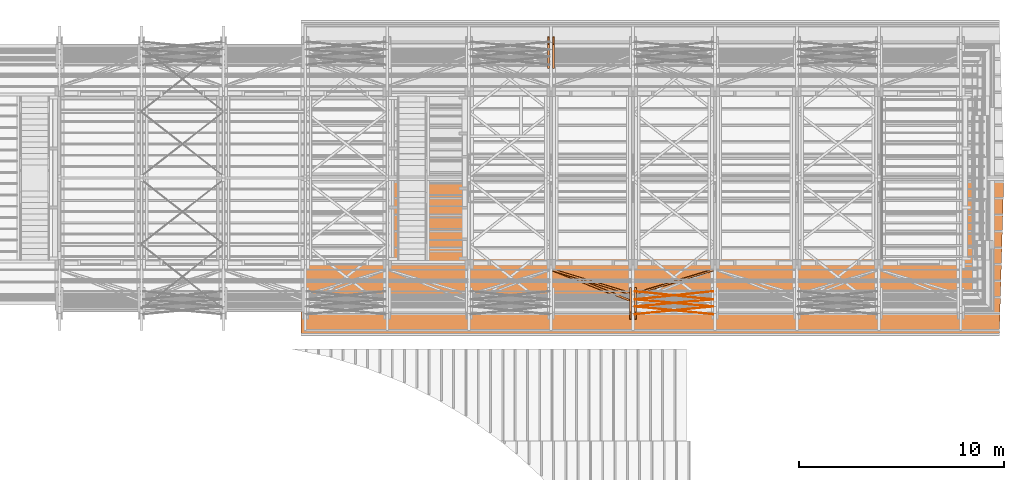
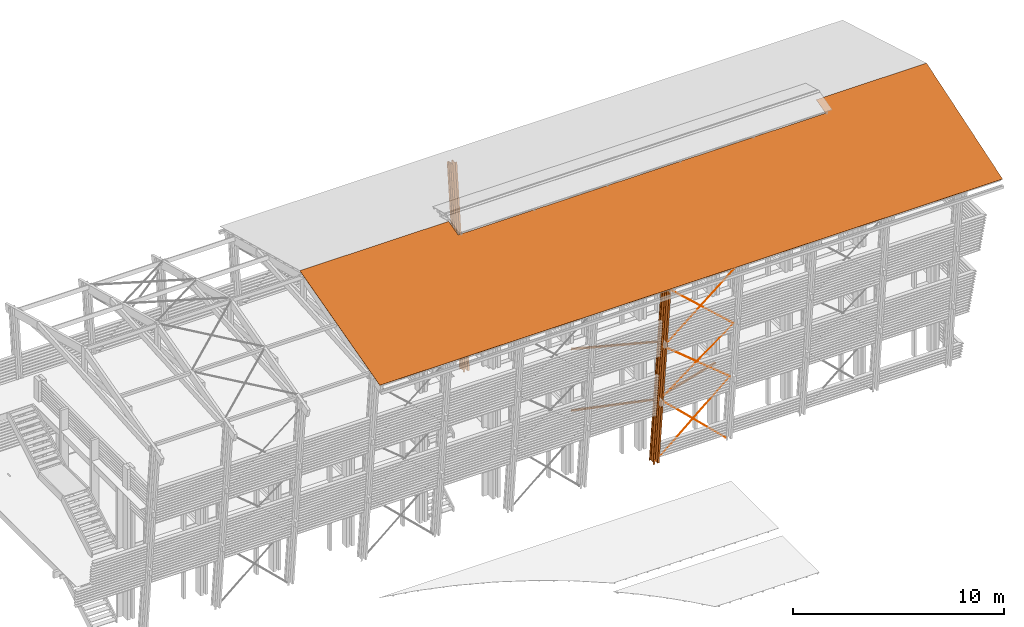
# One storey, part 43 of 48: 14 proxies, 1 element without a shape of its own.
"""IFC2X3 building model written with IfcOpenShell, lengths in metres."""

import ifcopenshell
import ifcopenshell.guid

model = None  # the IFC model being written
_history = None  # IfcOwnerHistory: only IFC2X3 demands one
_inside = {}  # id of a spatial element -> (the spatial element, [elements in it])
_under = {}  # id of a project, library or spatial element -> (it, [spatial elements below it])
_declared = {}  # id of a project -> (the project, [libraries it declares])
_typed = {}  # id of a type object -> (the type object, [elements of that type])
_made_of = {}  # id of a material, layer set ... -> (it, [elements and type objects made of it])


def new_model(schema):
    """Start an empty IFC model of exactly this schema.

    Asked for "IFC4X3", IfcOpenShell would pick the latest addendum, in which some entities
    have other attributes; the version numbers below select the first issue.
    IFC2X3 requires an IfcOwnerHistory on every rooted entity: one is made here for all.
    """
    global model, _history
    if schema == "IFC4X3":
        model = ifcopenshell.file(schema_version=(4, 3, 0, 0))
    else:
        model = ifcopenshell.file(schema=schema)
    _inside.clear()
    _under.clear()
    _declared.clear()
    _typed.clear()
    _made_of.clear()
    _history = None
    if model.schema == "IFC2X3":
        org = make("IfcOrganization", Name="unknown")
        user = make(
            "IfcPersonAndOrganization",
            ThePerson=make("IfcPerson", FamilyName="unknown"),
            TheOrganization=org,
        )
        app = make(
            "IfcApplication",
            ApplicationDeveloper=org,
            Version="unknown",
            ApplicationFullName="unknown",
            ApplicationIdentifier="unknown",
        )
        _history = make(
            "IfcOwnerHistory",
            OwningUser=user,
            OwningApplication=app,
            ChangeAction="ADDED",
            CreationDate=0,
        )
    return model


def make(cls, **values):
    """One entity of the class cls with the attributes given. An attribute that is None is left unset."""
    return model.create_entity(
        cls, **{name: value for name, value in values.items() if value is not None}
    )


def rooted(cls, **values):
    """An entity with a GlobalId (a new one), such as an element, a storey or a relation."""
    return make(cls, GlobalId=ifcopenshell.guid.new(), OwnerHistory=_history, **values)


def si_unit(unit_type, name, prefix=None):
    """IfcSIUnit, for example si_unit("LENGTHUNIT", "METRE", prefix="MILLI")."""
    return make("IfcSIUnit", UnitType=unit_type, Prefix=prefix, Name=name)


def assignment(units):
    """IfcUnitAssignment: the units of a project."""
    return None if units is None else make("IfcUnitAssignment", Units=units)


def point(xyz):
    """IfcCartesianPoint."""
    return None if xyz is None else make("IfcCartesianPoint", Coordinates=xyz)


def direction(xyz):
    """IfcDirection."""
    return None if xyz is None else make("IfcDirection", DirectionRatios=xyz)


def frame(location, z_axis=None, x_axis=None):
    """IfcAxis2Placement3D, a coordinate frame: its origin and axes. An axis left out is left unset."""
    return make(
        "IfcAxis2Placement3D",
        Location=point(location),
        Axis=direction(z_axis),
        RefDirection=direction(x_axis),
    )


def origin_with_axes():
    """The frame at (0, 0, 0) with the z axis (0, 0, 1) and the x axis (1, 0, 0) written out."""
    return frame((0.0, 0.0, 0.0), z_axis=(0.0, 0.0, 1.0), x_axis=(1.0, 0.0, 0.0))


def place(relative_to, where):
    """IfcLocalPlacement: puts the frame where relative to a parent placement (None: the world)."""
    return make(
        "IfcLocalPlacement", PlacementRelTo=relative_to, RelativePlacement=where
    )


def context(
    kind, dimensions, precision=None, world=None, true_north=None, identifier=None
):
    """IfcGeometricRepresentationContext, for example the 3D "Model" context."""
    return make(
        "IfcGeometricRepresentationContext",
        ContextIdentifier=identifier,
        ContextType=kind,
        CoordinateSpaceDimension=dimensions,
        Precision=precision,
        WorldCoordinateSystem=world,
        TrueNorth=true_north,
    )


def subcontext(parent, identifier, kind, view, scale=None):
    """IfcGeometricRepresentationSubContext, for example "Body" below "Model"."""
    return make(
        "IfcGeometricRepresentationSubContext",
        ContextIdentifier=identifier,
        ContextType=kind,
        ParentContext=parent,
        TargetScale=scale,
        TargetView=view,
    )


def project(units=None, contexts=None):
    """IfcProject with its units and contexts."""
    return rooted(
        "IfcProject",
        Name="project",
        RepresentationContexts=contexts,
        UnitsInContext=assignment(units),
    )


def spatial(cls, under=None, at=None, **own):
    """A site, building, storey or space (cls), placed at a placement, below another one or the project."""
    s = rooted(cls, ObjectPlacement=at, **own)
    if under is not None:
        _under.setdefault(under.id(), (under, []))[1].append(s)
    return s


def faces_of(points, faces, orient=None, outer=None):
    """IfcFace entities. A face is a list of loops; a loop is a list of indices into points, from 0.

    orient and outer hold one flag for each loop. By default every Orientation is true, the
    first loop of a face is its IfcFaceOuterBound and the others are IfcFaceBound.
    """
    made = []
    for i, loops in enumerate(faces):
        bounds = []
        for j, loop in enumerate(loops):
            is_outer = j == 0 if outer is None else outer[i][j]
            bounds.append(
                make(
                    "IfcFaceOuterBound" if is_outer else "IfcFaceBound",
                    Bound=make("IfcPolyLoop", Polygon=[points[k] for k in loop]),
                    Orientation=True if orient is None else orient[i][j],
                )
            )
        made.append(make("IfcFace", Bounds=bounds))
    return made


def faceted_brep(points, faces, orient=None, outer=None, voids=None):
    """IfcFacetedBrep: a solid bounded by flat faces; with voids (closed shells), ...WithVoids."""
    shared = [point(p) for p in points]
    hull = make("IfcClosedShell", CfsFaces=faces_of(shared, faces, orient, outer))
    if voids is None:
        return make("IfcFacetedBrep", Outer=hull)
    return make(
        "IfcFacetedBrepWithVoids",
        Outer=hull,
        Voids=[
            make(cls, CfsFaces=faces_of(shared, fs, o, b)) for cls, fs, o, b in voids
        ],
    )


def shape(context_of_items, identifier, shape_type, items):
    """IfcShapeRepresentation: the items that make up one representation, for example the "Body"."""
    return make(
        "IfcShapeRepresentation",
        ContextOfItems=context_of_items,
        RepresentationIdentifier=identifier,
        RepresentationType=shape_type,
        Items=items,
    )


def material(Name=None, Category=None):
    """IfcMaterial."""
    return make("IfcMaterial", Name=Name, Category=Category)


def made_of(thing, what):
    """Note that an element or type object is made of a material, layer set ...; save() writes the relation."""
    if what is not None:
        _made_of.setdefault(what.id(), (what, []))[1].append(thing)
    return thing


def element(
    cls,
    number,
    at=None,
    inside=None,
    cuts=None,
    type_object=None,
    material=None,
    context=None,
    identifier="Body",
    shape_type=None,
    held_by="IfcProductDefinitionShape",
    body=None,
    shapes=None,
    **own,
):
    """One element of the class cls, such as IfcWall. Its Tag is "e" and its number.

    at: its placement. inside: the storey or other place that contains it. cuts: it is an
    opening in that element (IfcRelVoidsElement). A single representation is given by context,
    identifier, shape_type and body (its items); several are given by shapes. held_by: the class
    of the entity that holds the representations. save() writes the other relations.
    """
    e = rooted(cls, Tag="e%d" % number, ObjectPlacement=at, **own)
    if body is not None:
        shapes = [shape(context, identifier, shape_type, body)]
    if shapes is not None:
        e.Representation = make(held_by, Representations=shapes)
    if inside is not None:
        _inside.setdefault(inside.id(), (inside, []))[1].append(e)
    if cuts is not None:
        rooted(
            "IfcRelVoidsElement", RelatingBuildingElement=cuts, RelatedOpeningElement=e
        )
    if type_object is not None:
        _typed.setdefault(type_object.id(), (type_object, []))[1].append(e)
    return made_of(e, material)


def aggregate(whole, parts):
    """IfcRelAggregates: a whole, such as a stair, and the parts it consists of."""
    return rooted("IfcRelAggregates", RelatingObject=whole, RelatedObjects=parts)


def save(model, path):
    """Write the relations noted so far, then the file.

    IfcRelAggregates (storeys below a building ...), IfcRelContainedInSpatialStructure (elements
    in a storey), IfcRelDefinesByType, IfcRelAssociatesMaterial and IfcRelDeclares: one each for
    every whole, place, type object, material and project.
    """
    for whole, parts in _under.values():
        aggregate(whole, parts)
    for where, things in _inside.values():
        rooted(
            "IfcRelContainedInSpatialStructure",
            RelatedElements=things,
            RelatingStructure=where,
        )
    for kind, things in _typed.values():
        rooted("IfcRelDefinesByType", RelatedObjects=things, RelatingType=kind)
    for what, things in _made_of.values():
        rooted("IfcRelAssociatesMaterial", RelatedObjects=things, RelatingMaterial=what)
    for by, libraries in _declared.values():
        rooted("IfcRelDeclares", RelatingContext=by, RelatedDefinitions=libraries)
    model.write(path)


model = new_model("IFC2X3")

# Units and contexts
model_context = context("Model", 3, precision=1e-06, world=origin_with_axes(), true_north=direction((0.0, 1.0, 0.0)))
body_context = subcontext(model_context, "Body", "Model", "MODEL_VIEW")
ifc_project = project(units=[si_unit("LENGTHUNIT", "METRE"), si_unit("AREAUNIT", "SQUARE_METRE"), si_unit("VOLUMEUNIT", "CUBIC_METRE"), si_unit("PLANEANGLEUNIT", "RADIAN")], contexts=[model_context])

# Site, building, storey
site_placement = place(None, origin_with_axes())
site = spatial("IfcSite", under=ifc_project, at=site_placement, CompositionType="ELEMENT")
building_placement = place(site_placement, origin_with_axes())
building = spatial("IfcBuilding", under=site, at=building_placement, Name="Building 1", CompositionType="ELEMENT")
storey_placement = place(building_placement, origin_with_axes())
storey = spatial("IfcBuildingStorey", under=building, at=storey_placement, Name="Storey 1", CompositionType="ELEMENT", Elevation=0.0)

# Proxies
ifc_material_1 = material(Name="Acier")
proxy_1_placement = place(storey_placement, frame((53.5737433, -195.1364145, 4.089), z_axis=(-0.6523288, -0.0792259, 0.753784), x_axis=(0.7579361, -0.0681869, 0.6487553)))
element("IfcBuildingElementProxy", 1, at=proxy_1_placement, inside=storey, material=ifc_material_1, Name="CVLP", context=body_context, shape_type="Brep", body=[
    faceted_brep([(5.0558353, 0.0093969, -0.0034202), (0.0, 0.01, 0.0), (5.0558353, 0.01, 0.0), (0.0, 0.0093969, 0.0034202), (5.0558353, 0.0093969, 0.0034202), (0.0, 0.0076604, 0.0064279), (5.0558353, 0.0076604, 0.0064279), (0.0, 0.005, 0.0086603), (5.0558353, 0.005, 0.0086603), (0.0, 0.0017365, 0.0098481), (5.0558353, 0.0017365, 0.0098481), (0.0, -0.0017365, 0.0098481), (5.0558353, -0.0017365, 0.0098481), (0.0, -0.005, 0.0086603), (5.0558353, -0.005, 0.0086603), (0.0, -0.0076604, 0.0064279), (5.0558353, -0.0076604, 0.0064279), (0.0, -0.0093969, 0.0034202), (5.0558353, -0.0093969, 0.0034202), (0.0, -0.01, 0.0), (5.0558353, -0.01, 0.0), (0.0, -0.0093969, -0.0034202), (5.0558353, -0.0093969, -0.0034202), (0.0, -0.0076604, -0.0064279), (5.0558353, -0.0076604, -0.0064279), (0.0, -0.005, -0.0086603), (5.0558353, -0.005, -0.0086603), (0.0, -0.0017365, -0.0098481), (5.0558353, -0.0017365, -0.0098481), (0.0, 0.0017365, -0.0098481), (5.0558353, 0.0017365, -0.0098481), (0.0, 0.005, -0.0086603), (5.0558353, 0.005, -0.0086603), (0.0, 0.0076604, -0.0064279), (5.0558353, 0.0076604, -0.0064279), (0.0, 0.0093969, -0.0034202)], [[[0, 1, 2]], [[2, 1, 3]], [[2, 3, 4]], [[4, 3, 5]], [[4, 5, 6]], [[6, 5, 7]], [[6, 7, 8]], [[8, 7, 9]], [[8, 9, 10]], [[10, 9, 11]], [[10, 11, 12]], [[12, 11, 13]], [[12, 13, 14]], [[14, 13, 15]], [[14, 15, 16]], [[16, 15, 17]], [[16, 17, 18]], [[18, 17, 19]], [[18, 19, 20]], [[20, 19, 21]], [[20, 21, 22]], [[22, 21, 23]], [[22, 23, 24]], [[24, 23, 25]], [[24, 25, 26]], [[26, 25, 27]], [[26, 27, 28]], [[28, 27, 29]], [[28, 29, 30]], [[30, 29, 31]], [[30, 31, 32]], [[32, 31, 33]], [[32, 33, 34]], [[34, 33, 35]], [[34, 35, 0]], [[0, 35, 1]], [[10, 12, 8]], [[8, 12, 14]], [[8, 14, 6]], [[6, 14, 16]], [[6, 16, 4]], [[4, 16, 18]], [[4, 18, 2]], [[2, 18, 20]], [[2, 20, 0]], [[0, 20, 22]], [[0, 22, 34]], [[34, 22, 24]], [[34, 24, 32]], [[32, 24, 26]], [[32, 26, 30]], [[30, 26, 28]], [[29, 27, 31]], [[31, 27, 25]], [[31, 25, 33]], [[33, 25, 23]], [[33, 23, 35]], [[35, 23, 21]], [[35, 21, 1]], [[1, 21, 19]], [[1, 19, 3]], [[3, 19, 17]], [[3, 17, 5]], [[5, 17, 15]], [[5, 15, 7]], [[7, 15, 13]], [[7, 13, 9]], [[9, 13, 11]]]),
])
proxy_2_placement = place(storey_placement, frame((57.4057433, -195.4811564, 7.369), z_axis=(0.6859491, -0.0760601, 0.7236634), x_axis=(-0.7276496, -0.0717012, 0.6821914)))
element("IfcBuildingElementProxy", 2, at=proxy_2_placement, inside=storey, material=ifc_material_1, Name="CVLP", context=body_context, shape_type="Brep", body=[
    faceted_brep([(5.2662712, 0.0093969, -0.0034202), (0.0, 0.01, 0.0), (5.2662712, 0.01, 0.0), (0.0, 0.0093969, 0.0034202), (5.2662712, 0.0093969, 0.0034202), (0.0, 0.0076604, 0.0064279), (5.2662712, 0.0076604, 0.0064279), (0.0, 0.005, 0.0086603), (5.2662712, 0.005, 0.0086603), (0.0, 0.0017365, 0.0098481), (5.2662712, 0.0017365, 0.0098481), (0.0, -0.0017365, 0.0098481), (5.2662712, -0.0017365, 0.0098481), (0.0, -0.005, 0.0086603), (5.2662712, -0.005, 0.0086603), (0.0, -0.0076604, 0.0064279), (5.2662712, -0.0076604, 0.0064279), (0.0, -0.0093969, 0.0034202), (5.2662712, -0.0093969, 0.0034202), (0.0, -0.01, 0.0), (5.2662712, -0.01, 0.0), (0.0, -0.0093969, -0.0034202), (5.2662712, -0.0093969, -0.0034202), (0.0, -0.0076604, -0.0064279), (5.2662712, -0.0076604, -0.0064279), (0.0, -0.005, -0.0086603), (5.2662712, -0.005, -0.0086603), (0.0, -0.0017365, -0.0098481), (5.2662712, -0.0017365, -0.0098481), (0.0, 0.0017365, -0.0098481), (5.2662712, 0.0017365, -0.0098481), (0.0, 0.005, -0.0086603), (5.2662712, 0.005, -0.0086603), (0.0, 0.0076604, -0.0064279), (5.2662712, 0.0076604, -0.0064279), (0.0, 0.0093969, -0.0034202)], [[[0, 1, 2]], [[2, 1, 3]], [[2, 3, 4]], [[4, 3, 5]], [[4, 5, 6]], [[6, 5, 7]], [[6, 7, 8]], [[8, 7, 9]], [[8, 9, 10]], [[10, 9, 11]], [[10, 11, 12]], [[12, 11, 13]], [[12, 13, 14]], [[14, 13, 15]], [[14, 15, 16]], [[16, 15, 17]], [[16, 17, 18]], [[18, 17, 19]], [[18, 19, 20]], [[20, 19, 21]], [[20, 21, 22]], [[22, 21, 23]], [[22, 23, 24]], [[24, 23, 25]], [[24, 25, 26]], [[26, 25, 27]], [[26, 27, 28]], [[28, 27, 29]], [[28, 29, 30]], [[30, 29, 31]], [[30, 31, 32]], [[32, 31, 33]], [[32, 33, 34]], [[34, 33, 35]], [[34, 35, 0]], [[0, 35, 1]], [[10, 12, 8]], [[8, 12, 14]], [[8, 14, 6]], [[6, 14, 16]], [[6, 16, 4]], [[4, 16, 18]], [[4, 18, 2]], [[2, 18, 20]], [[2, 20, 0]], [[0, 20, 22]], [[0, 22, 34]], [[34, 22, 24]], [[34, 24, 32]], [[32, 24, 26]], [[32, 26, 30]], [[30, 26, 28]], [[29, 27, 31]], [[31, 27, 25]], [[31, 25, 33]], [[33, 25, 23]], [[33, 23, 35]], [[35, 23, 21]], [[35, 21, 1]], [[1, 21, 19]], [[1, 19, 3]], [[3, 19, 17]], [[3, 17, 5]], [[5, 17, 15]], [[5, 15, 7]], [[7, 15, 13]], [[7, 13, 9]], [[9, 13, 11]]]),
])
proxy_3_placement = place(storey_placement, frame((57.4057441, -195.1364145, 4.089), z_axis=(0.6523288, -0.0792259, 0.753784), x_axis=(-0.7579361, -0.0681869, 0.6487553)))
element("IfcBuildingElementProxy", 3, at=proxy_3_placement, inside=storey, material=ifc_material_1, Name="CVLP", context=body_context, shape_type="Brep", body=[
    faceted_brep([(5.0558353, -0.0093969, 0.0034202), (0.0, -0.01, 0.0), (5.0558353, -0.01, 0.0), (0.0, -0.0093969, -0.0034202), (5.0558353, -0.0093969, -0.0034202), (0.0, -0.0076604, -0.0064279), (5.0558353, -0.0076604, -0.0064279), (0.0, -0.005, -0.0086603), (5.0558353, -0.005, -0.0086603), (0.0, -0.0017365, -0.0098481), (5.0558353, -0.0017365, -0.0098481), (0.0, 0.0017365, -0.0098481), (5.0558353, 0.0017365, -0.0098481), (0.0, 0.005, -0.0086603), (5.0558353, 0.005, -0.0086603), (0.0, 0.0076604, -0.0064279), (5.0558353, 0.0076604, -0.0064279), (0.0, 0.0093969, -0.0034202), (5.0558353, 0.0093969, -0.0034202), (0.0, 0.01, 0.0), (5.0558353, 0.01, 0.0), (0.0, 0.0093969, 0.0034202), (5.0558353, 0.0093969, 0.0034202), (0.0, 0.0076604, 0.0064279), (5.0558353, 0.0076604, 0.0064279), (0.0, 0.005, 0.0086603), (5.0558353, 0.005, 0.0086603), (0.0, 0.0017365, 0.0098481), (5.0558353, 0.0017365, 0.0098481), (0.0, -0.0017365, 0.0098481), (5.0558353, -0.0017365, 0.0098481), (0.0, -0.005, 0.0086603), (5.0558353, -0.005, 0.0086603), (0.0, -0.0076604, 0.0064279), (5.0558353, -0.0076604, 0.0064279), (0.0, -0.0093969, 0.0034202)], [[[0, 1, 2]], [[2, 1, 3]], [[2, 3, 4]], [[4, 3, 5]], [[4, 5, 6]], [[6, 5, 7]], [[6, 7, 8]], [[8, 7, 9]], [[8, 9, 10]], [[10, 9, 11]], [[10, 11, 12]], [[12, 11, 13]], [[12, 13, 14]], [[14, 13, 15]], [[14, 15, 16]], [[16, 15, 17]], [[16, 17, 18]], [[18, 17, 19]], [[18, 19, 20]], [[20, 19, 21]], [[20, 21, 22]], [[22, 21, 23]], [[22, 23, 24]], [[24, 23, 25]], [[24, 25, 26]], [[26, 25, 27]], [[26, 27, 28]], [[28, 27, 29]], [[28, 29, 30]], [[30, 29, 31]], [[30, 31, 32]], [[32, 31, 33]], [[32, 33, 34]], [[34, 33, 35]], [[34, 35, 0]], [[0, 35, 1]], [[10, 12, 8]], [[8, 12, 14]], [[8, 14, 6]], [[6, 14, 16]], [[6, 16, 4]], [[4, 16, 18]], [[4, 18, 2]], [[2, 18, 20]], [[2, 20, 0]], [[0, 20, 22]], [[0, 22, 34]], [[34, 22, 24]], [[34, 24, 32]], [[32, 24, 26]], [[32, 26, 30]], [[30, 26, 28]], [[29, 27, 31]], [[31, 27, 25]], [[31, 25, 33]], [[33, 25, 23]], [[33, 23, 35]], [[35, 23, 21]], [[35, 21, 1]], [[1, 21, 19]], [[1, 19, 3]], [[3, 19, 17]], [[3, 17, 5]], [[5, 17, 15]], [[5, 15, 7]], [[7, 15, 13]], [[7, 13, 9]], [[9, 13, 11]]]),
])
proxy_4_placement = place(storey_placement, frame((57.4057433, -194.7381746, 0.3), z_axis=(0.7050562, -0.0741265, 0.7052666), x_axis=(-0.7091514, -0.0736984, 0.7011938)))
element("IfcBuildingElementProxy", 4, at=proxy_4_placement, inside=storey, material=ifc_material_1, Name="CVLP", context=body_context, shape_type="Brep", body=[
    faceted_brep([(5.4036414, 0.0093969, -0.0034202), (0.0, 0.01, 0.0), (5.4036414, 0.01, 0.0), (0.0, 0.0093969, 0.0034202), (5.4036414, 0.0093969, 0.0034202), (0.0, 0.0076604, 0.0064279), (5.4036414, 0.0076604, 0.0064279), (0.0, 0.005, 0.0086603), (5.4036414, 0.005, 0.0086603), (0.0, 0.0017365, 0.0098481), (5.4036414, 0.0017365, 0.0098481), (0.0, -0.0017365, 0.0098481), (5.4036414, -0.0017365, 0.0098481), (0.0, -0.005, 0.0086603), (5.4036414, -0.005, 0.0086603), (0.0, -0.0076604, 0.0064279), (5.4036414, -0.0076604, 0.0064279), (0.0, -0.0093969, 0.0034202), (5.4036414, -0.0093969, 0.0034202), (0.0, -0.01, 0.0), (5.4036414, -0.01, 0.0), (0.0, -0.0093969, -0.0034202), (5.4036414, -0.0093969, -0.0034202), (0.0, -0.0076604, -0.0064279), (5.4036414, -0.0076604, -0.0064279), (0.0, -0.005, -0.0086603), (5.4036414, -0.005, -0.0086603), (0.0, -0.0017365, -0.0098481), (5.4036414, -0.0017365, -0.0098481), (0.0, 0.0017365, -0.0098481), (5.4036414, 0.0017365, -0.0098481), (0.0, 0.005, -0.0086603), (5.4036414, 0.005, -0.0086603), (0.0, 0.0076604, -0.0064279), (5.4036414, 0.0076604, -0.0064279), (0.0, 0.0093969, -0.0034202)], [[[0, 1, 2]], [[2, 1, 3]], [[2, 3, 4]], [[4, 3, 5]], [[4, 5, 6]], [[6, 5, 7]], [[6, 7, 8]], [[8, 7, 9]], [[8, 9, 10]], [[10, 9, 11]], [[10, 11, 12]], [[12, 11, 13]], [[12, 13, 14]], [[14, 13, 15]], [[14, 15, 16]], [[16, 15, 17]], [[16, 17, 18]], [[18, 17, 19]], [[18, 19, 20]], [[20, 19, 21]], [[20, 21, 22]], [[22, 21, 23]], [[22, 23, 24]], [[24, 23, 25]], [[24, 25, 26]], [[26, 25, 27]], [[26, 27, 28]], [[28, 27, 29]], [[28, 29, 30]], [[30, 29, 31]], [[30, 31, 32]], [[32, 31, 33]], [[32, 33, 34]], [[34, 33, 35]], [[34, 35, 0]], [[0, 35, 1]], [[10, 12, 8]], [[8, 12, 14]], [[8, 14, 6]], [[6, 14, 16]], [[6, 16, 4]], [[4, 16, 18]], [[4, 18, 2]], [[2, 18, 20]], [[2, 20, 0]], [[0, 20, 22]], [[0, 22, 34]], [[34, 22, 24]], [[34, 24, 32]], [[32, 24, 26]], [[32, 26, 30]], [[30, 26, 28]], [[29, 27, 31]], [[31, 27, 25]], [[31, 25, 33]], [[33, 25, 23]], [[33, 23, 35]], [[35, 23, 21]], [[35, 21, 1]], [[1, 21, 19]], [[1, 19, 3]], [[3, 19, 17]], [[3, 17, 5]], [[5, 17, 15]], [[5, 15, 7]], [[7, 15, 13]], [[7, 13, 9]], [[9, 13, 11]]]),
])
proxy_5_placement = place(storey_placement, frame((53.5737441, -195.4811564, 7.369), z_axis=(-0.6859491, -0.0760601, 0.7236634), x_axis=(0.7276496, -0.0717012, 0.6821914)))
element("IfcBuildingElementProxy", 5, at=proxy_5_placement, inside=storey, material=ifc_material_1, Name="CVLP", context=body_context, shape_type="Brep", body=[
    faceted_brep([(5.2662712, -0.0093969, 0.0034202), (0.0, -0.01, 0.0), (5.2662712, -0.01, 0.0), (0.0, -0.0093969, -0.0034202), (5.2662712, -0.0093969, -0.0034202), (0.0, -0.0076604, -0.0064279), (5.2662712, -0.0076604, -0.0064279), (0.0, -0.005, -0.0086603), (5.2662712, -0.005, -0.0086603), (0.0, -0.0017365, -0.0098481), (5.2662712, -0.0017365, -0.0098481), (0.0, 0.0017365, -0.0098481), (5.2662712, 0.0017365, -0.0098481), (0.0, 0.005, -0.0086603), (5.2662712, 0.005, -0.0086603), (0.0, 0.0076604, -0.0064279), (5.2662712, 0.0076604, -0.0064279), (0.0, 0.0093969, -0.0034202), (5.2662712, 0.0093969, -0.0034202), (0.0, 0.01, 0.0), (5.2662712, 0.01, 0.0), (0.0, 0.0093969, 0.0034202), (5.2662712, 0.0093969, 0.0034202), (0.0, 0.0076604, 0.0064279), (5.2662712, 0.0076604, 0.0064279), (0.0, 0.005, 0.0086603), (5.2662712, 0.005, 0.0086603), (0.0, 0.0017365, 0.0098481), (5.2662712, 0.0017365, 0.0098481), (0.0, -0.0017365, 0.0098481), (5.2662712, -0.0017365, 0.0098481), (0.0, -0.005, 0.0086603), (5.2662712, -0.005, 0.0086603), (0.0, -0.0076604, 0.0064279), (5.2662712, -0.0076604, 0.0064279), (0.0, -0.0093969, 0.0034202)], [[[0, 1, 2]], [[2, 1, 3]], [[2, 3, 4]], [[4, 3, 5]], [[4, 5, 6]], [[6, 5, 7]], [[6, 7, 8]], [[8, 7, 9]], [[8, 9, 10]], [[10, 9, 11]], [[10, 11, 12]], [[12, 11, 13]], [[12, 13, 14]], [[14, 13, 15]], [[14, 15, 16]], [[16, 15, 17]], [[16, 17, 18]], [[18, 17, 19]], [[18, 19, 20]], [[20, 19, 21]], [[20, 21, 22]], [[22, 21, 23]], [[22, 23, 24]], [[24, 23, 25]], [[24, 25, 26]], [[26, 25, 27]], [[26, 27, 28]], [[28, 27, 29]], [[28, 29, 30]], [[30, 29, 31]], [[30, 31, 32]], [[32, 31, 33]], [[32, 33, 34]], [[34, 33, 35]], [[34, 35, 0]], [[0, 35, 1]], [[10, 12, 8]], [[8, 12, 14]], [[8, 14, 6]], [[6, 14, 16]], [[6, 16, 4]], [[4, 16, 18]], [[4, 18, 2]], [[2, 18, 20]], [[2, 20, 0]], [[0, 20, 22]], [[0, 22, 34]], [[34, 22, 24]], [[34, 24, 32]], [[32, 24, 26]], [[32, 26, 30]], [[30, 26, 28]], [[29, 27, 31]], [[31, 27, 25]], [[31, 25, 33]], [[33, 25, 23]], [[33, 23, 35]], [[35, 23, 21]], [[35, 21, 1]], [[1, 21, 19]], [[1, 19, 3]], [[3, 19, 17]], [[3, 17, 5]], [[5, 17, 15]], [[5, 15, 7]], [[7, 15, 13]], [[7, 13, 9]], [[9, 13, 11]]]),
])
proxy_6_placement = place(storey_placement, frame((53.5737441, -194.7381746, 0.3), z_axis=(-0.7050562, -0.0741265, 0.7052666), x_axis=(0.7091514, -0.0736984, 0.7011938)))
element("IfcBuildingElementProxy", 6, at=proxy_6_placement, inside=storey, material=ifc_material_1, Name="CVLP", context=body_context, shape_type="Brep", body=[
    faceted_brep([(5.4036414, -0.0093969, 0.0034202), (0.0, -0.01, 0.0), (5.4036414, -0.01, 0.0), (0.0, -0.0093969, -0.0034202), (5.4036414, -0.0093969, -0.0034202), (0.0, -0.0076604, -0.0064279), (5.4036414, -0.0076604, -0.0064279), (0.0, -0.005, -0.0086603), (5.4036414, -0.005, -0.0086603), (0.0, -0.0017365, -0.0098481), (5.4036414, -0.0017365, -0.0098481), (0.0, 0.0017365, -0.0098481), (5.4036414, 0.0017365, -0.0098481), (0.0, 0.005, -0.0086603), (5.4036414, 0.005, -0.0086603), (0.0, 0.0076604, -0.0064279), (5.4036414, 0.0076604, -0.0064279), (0.0, 0.0093969, -0.0034202), (5.4036414, 0.0093969, -0.0034202), (0.0, 0.01, 0.0), (5.4036414, 0.01, 0.0), (0.0, 0.0093969, 0.0034202), (5.4036414, 0.0093969, 0.0034202), (0.0, 0.0076604, 0.0064279), (5.4036414, 0.0076604, 0.0064279), (0.0, 0.005, 0.0086603), (5.4036414, 0.005, 0.0086603), (0.0, 0.0017365, 0.0098481), (5.4036414, 0.0017365, 0.0098481), (0.0, -0.0017365, 0.0098481), (5.4036414, -0.0017365, 0.0098481), (0.0, -0.005, 0.0086603), (5.4036414, -0.005, 0.0086603), (0.0, -0.0076604, 0.0064279), (5.4036414, -0.0076604, 0.0064279), (0.0, -0.0093969, 0.0034202)], [[[0, 1, 2]], [[2, 1, 3]], [[2, 3, 4]], [[4, 3, 5]], [[4, 5, 6]], [[6, 5, 7]], [[6, 7, 8]], [[8, 7, 9]], [[8, 9, 10]], [[10, 9, 11]], [[10, 11, 12]], [[12, 11, 13]], [[12, 13, 14]], [[14, 13, 15]], [[14, 15, 16]], [[16, 15, 17]], [[16, 17, 18]], [[18, 17, 19]], [[18, 19, 20]], [[20, 19, 21]], [[20, 21, 22]], [[22, 21, 23]], [[22, 23, 24]], [[24, 23, 25]], [[24, 25, 26]], [[26, 25, 27]], [[26, 27, 28]], [[28, 27, 29]], [[28, 29, 30]], [[30, 29, 31]], [[30, 31, 32]], [[32, 31, 33]], [[32, 33, 34]], [[34, 33, 35]], [[34, 35, 0]], [[0, 35, 1]], [[10, 12, 8]], [[8, 12, 14]], [[8, 14, 6]], [[6, 14, 16]], [[6, 16, 4]], [[4, 16, 18]], [[4, 18, 2]], [[2, 18, 20]], [[2, 20, 0]], [[0, 20, 22]], [[0, 22, 34]], [[34, 22, 24]], [[34, 24, 32]], [[32, 24, 26]], [[32, 26, 30]], [[30, 26, 28]], [[29, 27, 31]], [[31, 27, 25]], [[31, 25, 33]], [[33, 25, 23]], [[33, 23, 35]], [[35, 23, 21]], [[35, 21, 1]], [[1, 21, 19]], [[1, 19, 3]], [[3, 19, 17]], [[3, 17, 5]], [[5, 17, 15]], [[5, 15, 7]], [[7, 15, 13]], [[7, 13, 9]], [[9, 13, 11]]]),
])
proxy_7_placement = place(storey_placement, frame((53.6107437, -195.9301471, 11.6408612), z_axis=(0.0, 0.9945219, 0.1045285), x_axis=(0.0, 0.1045285, -0.9945219)))
element("IfcBuildingElementProxy", 7, at=proxy_7_placement, inside=storey, material=ifc_material_1, Name="Poteau", context=body_context, shape_type="Brep", body=[
    faceted_brep([(0.0556479, 0.0367655, -0.161347), (0.0548889, 0.0375, -0.156555), (0.0601861, 0.051, -0.19), (0.0052972, 0.0375, 0.156555), (0.0, 0.051, 0.19), (0.0045382, 0.0367655, 0.161347), (0.0038489, 0.0346296, 0.165699), (0.0592057, -0.051, -0.18381), (0.0579402, -0.0433995, -0.17582), (0.0601861, -0.051, -0.19), (0.0574199, 0.022299, -0.172535), (0.0572658, 0.0270483, -0.1715622), (0.0568935, 0.0312883, -0.1692116), (0.0588262, -0.0506328, -0.181414), (0.0584816, -0.0495648, -0.179238), (0.0582034, -0.0478941, -0.1774817), (0.0580172, -0.0457742, -0.1763064), (0.0563372, 0.0346296, -0.165699), (0.0032926, 0.0312883, 0.1692116), (0.0029203, 0.0270483, 0.1715622), (0.0027662, 0.022299, 0.172535), (0.0, -0.051, 0.19), (0.0022459, -0.0433995, 0.17582), (0.0009804, -0.051, 0.18381), (0.0013599, -0.0506328, 0.181414), (0.0021689, -0.0457742, 0.1763064), (0.0019827, -0.0478941, 0.1774817), (0.0017045, -0.0495648, 0.179238), (11.420672, 0.0375, -0.156555), (11.420672, 0.0367655, -0.161347), (11.420672, 0.0346296, -0.165699), (11.420672, 0.0312883, -0.1692116), (11.420672, 0.0270483, -0.1715622), (11.420672, 0.022299, -0.172535), (11.420672, -0.0433995, -0.17582), (11.420672, -0.0457742, -0.1763064), (11.420672, -0.0478941, -0.1774817), (11.420672, -0.0495648, -0.179238), (11.420672, -0.0506328, -0.181414), (11.420672, -0.051, -0.18381), (11.420672, -0.051, -0.19), (11.420672, 0.051, -0.19), (11.420672, 0.051, 0.19), (11.420672, -0.051, 0.19), (11.420672, -0.051, 0.18381), (11.420672, -0.0506328, 0.181414), (11.420672, -0.0495648, 0.179238), (11.420672, -0.0478941, 0.1774817), (11.420672, -0.0457742, 0.1763064), (11.420672, -0.0433995, 0.17582), (11.420672, 0.022299, 0.172535), (11.420672, 0.0270483, 0.1715622), (11.420672, 0.0312883, 0.1692116), (11.420672, 0.0346296, 0.165699), (11.420672, 0.0367655, 0.161347), (11.420672, 0.0375, 0.156555)], [[[0, 1, 2]], [[2, 1, 3]], [[2, 3, 4]], [[4, 3, 5]], [[4, 5, 6]], [[7, 8, 9]], [[9, 8, 10]], [[9, 10, 2]], [[2, 10, 11]], [[2, 11, 12]], [[7, 13, 8]], [[8, 13, 14]], [[8, 14, 15]], [[15, 16, 8]], [[12, 17, 2]], [[2, 17, 0]], [[6, 18, 4]], [[4, 18, 19]], [[4, 19, 20]], [[4, 20, 21]], [[21, 20, 22]], [[21, 22, 23]], [[23, 22, 24]], [[25, 26, 22]], [[22, 26, 27]], [[22, 27, 24]], [[1, 0, 28]], [[28, 0, 29]], [[0, 17, 29]], [[29, 17, 30]], [[17, 12, 30]], [[30, 12, 31]], [[12, 11, 31]], [[31, 11, 32]], [[11, 10, 32]], [[32, 10, 33]], [[10, 8, 33]], [[33, 8, 34]], [[8, 16, 34]], [[34, 16, 35]], [[16, 15, 35]], [[35, 15, 36]], [[15, 14, 36]], [[36, 14, 37]], [[14, 13, 37]], [[37, 13, 38]], [[13, 7, 38]], [[38, 7, 39]], [[7, 9, 39]], [[39, 9, 40]], [[9, 2, 40]], [[40, 2, 41]], [[4, 42, 2]], [[2, 42, 41]], [[43, 42, 21]], [[21, 42, 4]], [[21, 23, 43]], [[43, 23, 44]], [[23, 24, 44]], [[44, 24, 45]], [[24, 27, 45]], [[45, 27, 46]], [[27, 26, 46]], [[46, 26, 47]], [[26, 25, 47]], [[47, 25, 48]], [[25, 22, 48]], [[48, 22, 49]], [[22, 20, 49]], [[49, 20, 50]], [[20, 19, 50]], [[50, 19, 51]], [[19, 18, 51]], [[51, 18, 52]], [[18, 6, 52]], [[52, 6, 53]], [[6, 5, 53]], [[53, 5, 54]], [[5, 3, 54]], [[54, 3, 55]], [[3, 1, 55]], [[55, 1, 28]], [[53, 54, 42]], [[42, 54, 55]], [[42, 55, 41]], [[41, 55, 28]], [[41, 28, 29]], [[44, 49, 43]], [[43, 49, 50]], [[43, 50, 42]], [[42, 50, 51]], [[42, 51, 52]], [[44, 45, 49]], [[49, 45, 46]], [[49, 46, 47]], [[47, 48, 49]], [[52, 53, 42]], [[29, 30, 41]], [[41, 30, 31]], [[41, 31, 32]], [[32, 33, 41]], [[41, 33, 40]], [[33, 34, 40]], [[40, 34, 39]], [[34, 35, 39]], [[39, 35, 36]], [[39, 36, 37]], [[37, 38, 39]]]),
])
proxy_8_placement = place(storey_placement, frame((53.3687437, -195.9301471, 11.6408612), z_axis=(0.0, 0.9945219, 0.1045285), x_axis=(0.0, 0.1045285, -0.9945219)))
element("IfcBuildingElementProxy", 8, at=proxy_8_placement, inside=storey, material=ifc_material_1, Name="Poteau", context=body_context, shape_type="Brep", body=[
    faceted_brep([(0.0588262, 0.0506328, -0.181414), (0.0592057, 0.051, -0.18381), (0.0579402, 0.0433995, -0.17582), (0.0601861, 0.051, -0.19), (0.0574199, -0.022299, -0.172535), (0.0601861, -0.051, -0.19), (0.0572658, -0.0270483, -0.1715622), (0.0568935, -0.0312883, -0.1692116), (0.0038489, -0.0346296, 0.165699), (0.0045382, -0.0367655, 0.161347), (0.0, -0.051, 0.19), (0.0052972, -0.0375, 0.156555), (0.0548889, -0.0375, -0.156555), (0.0556479, -0.0367655, -0.161347), (0.0009804, 0.051, 0.18381), (0.0022459, 0.0433995, 0.17582), (0.0, 0.051, 0.19), (0.0027662, -0.022299, 0.172535), (0.0029203, -0.0270483, 0.1715622), (0.0032926, -0.0312883, 0.1692116), (0.0013599, 0.0506328, 0.181414), (0.0017045, 0.0495648, 0.179238), (0.0019827, 0.0478941, 0.1774817), (0.0021689, 0.0457742, 0.1763064), (0.0563372, -0.0346296, -0.165699), (0.0580172, 0.0457742, -0.1763064), (0.0582034, 0.0478941, -0.1774817), (0.0584816, 0.0495648, -0.179238), (11.420672, 0.0433995, 0.17582), (11.420672, 0.0457742, 0.1763064), (11.420672, 0.0478941, 0.1774817), (11.420672, 0.0495648, 0.179238), (11.420672, 0.0506328, 0.181414), (11.420672, 0.051, 0.18381), (11.420672, 0.051, 0.19), (11.420672, -0.051, 0.19), (11.420672, -0.051, -0.19), (11.420672, 0.051, -0.19), (11.420672, 0.051, -0.18381), (11.420672, 0.0506328, -0.181414), (11.420672, 0.0495648, -0.179238), (11.420672, 0.0478941, -0.1774817), (11.420672, 0.0457742, -0.1763064), (11.420672, 0.0433995, -0.17582), (11.420672, -0.022299, -0.172535), (11.420672, -0.0270483, -0.1715622), (11.420672, -0.0312883, -0.1692116), (11.420672, -0.0346296, -0.165699), (11.420672, -0.0367655, -0.161347), (11.420672, -0.0375, -0.156555), (11.420672, -0.0375, 0.156555), (11.420672, -0.0367655, 0.161347), (11.420672, -0.0346296, 0.165699), (11.420672, -0.0312883, 0.1692116), (11.420672, -0.0270483, 0.1715622), (11.420672, -0.022299, 0.172535)], [[[0, 1, 2]], [[2, 1, 3]], [[2, 3, 4]], [[4, 3, 5]], [[4, 5, 6]], [[6, 5, 7]], [[8, 9, 10]], [[10, 9, 11]], [[10, 11, 5]], [[5, 11, 12]], [[5, 12, 13]], [[14, 15, 16]], [[16, 15, 17]], [[16, 17, 10]], [[10, 17, 18]], [[10, 18, 19]], [[14, 20, 15]], [[15, 20, 21]], [[15, 21, 22]], [[22, 23, 15]], [[19, 8, 10]], [[13, 24, 5]], [[5, 24, 7]], [[25, 26, 2]], [[2, 26, 27]], [[2, 27, 0]], [[15, 23, 28]], [[28, 23, 29]], [[23, 22, 29]], [[29, 22, 30]], [[22, 21, 30]], [[30, 21, 31]], [[21, 20, 31]], [[31, 20, 32]], [[20, 14, 32]], [[32, 14, 33]], [[16, 34, 14]], [[14, 34, 33]], [[10, 5, 35]], [[35, 5, 36]], [[5, 3, 36]], [[36, 3, 37]], [[1, 38, 3]], [[3, 38, 37]], [[1, 0, 38]], [[38, 0, 39]], [[0, 27, 39]], [[39, 27, 40]], [[27, 26, 40]], [[40, 26, 41]], [[26, 25, 41]], [[41, 25, 42]], [[25, 2, 42]], [[42, 2, 43]], [[4, 44, 2]], [[2, 44, 43]], [[4, 6, 44]], [[44, 6, 45]], [[6, 7, 45]], [[45, 7, 46]], [[7, 24, 46]], [[46, 24, 47]], [[24, 13, 47]], [[47, 13, 48]], [[13, 12, 48]], [[48, 12, 49]], [[11, 50, 12]], [[12, 50, 49]], [[11, 9, 50]], [[50, 9, 51]], [[9, 8, 51]], [[51, 8, 52]], [[8, 19, 52]], [[52, 19, 53]], [[19, 18, 53]], [[53, 18, 54]], [[18, 17, 54]], [[54, 17, 55]], [[15, 28, 17]], [[17, 28, 55]], [[35, 34, 10]], [[10, 34, 16]], [[48, 49, 36]], [[36, 49, 50]], [[36, 50, 35]], [[35, 50, 51]], [[35, 51, 52]], [[41, 42, 38]], [[38, 42, 43]], [[38, 43, 37]], [[37, 43, 44]], [[37, 44, 36]], [[36, 44, 45]], [[36, 45, 46]], [[39, 40, 38]], [[38, 40, 41]], [[46, 47, 36]], [[36, 47, 48]], [[52, 53, 35]], [[35, 53, 54]], [[35, 54, 55]], [[35, 55, 34]], [[34, 55, 28]], [[34, 28, 33]], [[33, 28, 32]], [[29, 30, 28]], [[28, 30, 31]], [[28, 31, 32]]]),
])
proxy_9_placement = place(storey_placement, frame((49.6107437, -182.4859924, 11.6408612), z_axis=(0.0, -0.9945219, 0.1045285), x_axis=(0.0, -0.1045285, -0.9945219)))
element("IfcBuildingElementProxy", 9, at=proxy_9_placement, inside=storey, material=ifc_material_1, Name="Poteau", context=body_context, shape_type="Brep", body=[
    faceted_brep([(0.0588262, 0.0506328, -0.181414), (0.0592057, 0.051, -0.18381), (0.0579402, 0.0433995, -0.17582), (0.0601861, 0.051, -0.19), (0.0574199, -0.022299, -0.172535), (0.0601861, -0.051, -0.19), (0.0572658, -0.0270483, -0.1715622), (0.0568935, -0.0312883, -0.1692116), (0.0045382, -0.0367655, 0.161347), (0.0052972, -0.0375, 0.156555), (0.0, -0.051, 0.19), (0.0548889, -0.0375, -0.156555), (0.0556479, -0.0367655, -0.161347), (0.0563372, -0.0346296, -0.165699), (0.0009804, 0.051, 0.18381), (0.0022459, 0.0433995, 0.17582), (0.0, 0.051, 0.19), (0.0027662, -0.022299, 0.172535), (0.0029203, -0.0270483, 0.1715622), (0.0032926, -0.0312883, 0.1692116), (0.0013599, 0.0506328, 0.181414), (0.0017045, 0.0495648, 0.179238), (0.0019827, 0.0478941, 0.1774817), (0.0021689, 0.0457742, 0.1763064), (0.0038489, -0.0346296, 0.165699), (0.0580172, 0.0457742, -0.1763064), (0.0582034, 0.0478941, -0.1774817), (0.0584816, 0.0495648, -0.179238), (11.420672, 0.0433995, 0.17582), (11.420672, 0.0457742, 0.1763064), (11.420672, 0.0478941, 0.1774817), (11.420672, 0.0495648, 0.179238), (11.420672, 0.0506328, 0.181414), (11.420672, 0.051, 0.18381), (11.420672, 0.051, 0.19), (11.420672, -0.051, 0.19), (11.420672, -0.051, -0.19), (11.420672, 0.051, -0.19), (11.420672, 0.051, -0.18381), (11.420672, 0.0506328, -0.181414), (11.420672, 0.0495648, -0.179238), (11.420672, 0.0478941, -0.1774817), (11.420672, 0.0457742, -0.1763064), (11.420672, 0.0433995, -0.17582), (11.420672, -0.022299, -0.172535), (11.420672, -0.0270483, -0.1715622), (11.420672, -0.0312883, -0.1692116), (11.420672, -0.0346296, -0.165699), (11.420672, -0.0367655, -0.161347), (11.420672, -0.0375, -0.156555), (11.420672, -0.0375, 0.156555), (11.420672, -0.0367655, 0.161347), (11.420672, -0.0346296, 0.165699), (11.420672, -0.0312883, 0.1692116), (11.420672, -0.0270483, 0.1715622), (11.420672, -0.022299, 0.172535)], [[[0, 1, 2]], [[2, 1, 3]], [[2, 3, 4]], [[4, 3, 5]], [[4, 5, 6]], [[6, 5, 7]], [[8, 9, 10]], [[10, 9, 11]], [[10, 11, 5]], [[5, 11, 12]], [[5, 12, 13]], [[14, 15, 16]], [[16, 15, 17]], [[16, 17, 10]], [[10, 17, 18]], [[10, 18, 19]], [[14, 20, 15]], [[15, 20, 21]], [[15, 21, 22]], [[22, 23, 15]], [[19, 24, 10]], [[10, 24, 8]], [[13, 7, 5]], [[25, 26, 2]], [[2, 26, 27]], [[2, 27, 0]], [[15, 23, 28]], [[28, 23, 29]], [[23, 22, 29]], [[29, 22, 30]], [[22, 21, 30]], [[30, 21, 31]], [[21, 20, 31]], [[31, 20, 32]], [[20, 14, 32]], [[32, 14, 33]], [[16, 34, 14]], [[14, 34, 33]], [[10, 5, 35]], [[35, 5, 36]], [[5, 3, 36]], [[36, 3, 37]], [[1, 38, 3]], [[3, 38, 37]], [[1, 0, 38]], [[38, 0, 39]], [[0, 27, 39]], [[39, 27, 40]], [[27, 26, 40]], [[40, 26, 41]], [[26, 25, 41]], [[41, 25, 42]], [[25, 2, 42]], [[42, 2, 43]], [[4, 44, 2]], [[2, 44, 43]], [[4, 6, 44]], [[44, 6, 45]], [[6, 7, 45]], [[45, 7, 46]], [[7, 13, 46]], [[46, 13, 47]], [[13, 12, 47]], [[47, 12, 48]], [[12, 11, 48]], [[48, 11, 49]], [[9, 50, 11]], [[11, 50, 49]], [[9, 8, 50]], [[50, 8, 51]], [[8, 24, 51]], [[51, 24, 52]], [[24, 19, 52]], [[52, 19, 53]], [[19, 18, 53]], [[53, 18, 54]], [[18, 17, 54]], [[54, 17, 55]], [[15, 28, 17]], [[17, 28, 55]], [[35, 34, 10]], [[10, 34, 16]], [[48, 49, 36]], [[36, 49, 50]], [[36, 50, 35]], [[35, 50, 51]], [[35, 51, 52]], [[41, 42, 38]], [[38, 42, 43]], [[38, 43, 37]], [[37, 43, 44]], [[37, 44, 36]], [[36, 44, 45]], [[36, 45, 46]], [[39, 40, 38]], [[38, 40, 41]], [[46, 47, 36]], [[36, 47, 48]], [[52, 53, 35]], [[35, 53, 54]], [[35, 54, 55]], [[35, 55, 34]], [[34, 55, 28]], [[34, 28, 33]], [[33, 28, 32]], [[29, 30, 28]], [[28, 30, 31]], [[28, 31, 32]]]),
])
proxy_10_placement = place(storey_placement, frame((49.3687437, -182.4859924, 11.6408612), z_axis=(0.0, -0.9945219, 0.1045285), x_axis=(0.0, -0.1045285, -0.9945219)))
element("IfcBuildingElementProxy", 10, at=proxy_10_placement, inside=storey, material=ifc_material_1, Name="Poteau", context=body_context, shape_type="Brep", body=[
    faceted_brep([(0.0563372, 0.0346296, -0.165699), (0.0556479, 0.0367655, -0.161347), (0.0601861, 0.051, -0.19), (0.0548889, 0.0375, -0.156555), (0.0, 0.051, 0.19), (0.0052972, 0.0375, 0.156555), (0.0045382, 0.0367655, 0.161347), (0.0592057, -0.051, -0.18381), (0.0579402, -0.0433995, -0.17582), (0.0601861, -0.051, -0.19), (0.0574199, 0.022299, -0.172535), (0.0572658, 0.0270483, -0.1715622), (0.0568935, 0.0312883, -0.1692116), (0.0588262, -0.0506328, -0.181414), (0.0584816, -0.0495648, -0.179238), (0.0582034, -0.0478941, -0.1774817), (0.0580172, -0.0457742, -0.1763064), (0.0038489, 0.0346296, 0.165699), (0.0032926, 0.0312883, 0.1692116), (0.0029203, 0.0270483, 0.1715622), (0.0027662, 0.022299, 0.172535), (0.0, -0.051, 0.19), (0.0022459, -0.0433995, 0.17582), (0.0009804, -0.051, 0.18381), (0.0021689, -0.0457742, 0.1763064), (0.0019827, -0.0478941, 0.1774817), (0.0017045, -0.0495648, 0.179238), (0.0013599, -0.0506328, 0.181414), (11.420672, 0.0375, -0.156555), (11.420672, 0.0367655, -0.161347), (11.420672, 0.0346296, -0.165699), (11.420672, 0.0312883, -0.1692116), (11.420672, 0.0270483, -0.1715622), (11.420672, 0.022299, -0.172535), (11.420672, -0.0433995, -0.17582), (11.420672, -0.0457742, -0.1763064), (11.420672, -0.0478941, -0.1774817), (11.420672, -0.0495648, -0.179238), (11.420672, -0.0506328, -0.181414), (11.420672, -0.051, -0.18381), (11.420672, -0.051, -0.19), (11.420672, 0.051, -0.19), (11.420672, 0.051, 0.19), (11.420672, -0.051, 0.19), (11.420672, -0.051, 0.18381), (11.420672, -0.0506328, 0.181414), (11.420672, -0.0495648, 0.179238), (11.420672, -0.0478941, 0.1774817), (11.420672, -0.0457742, 0.1763064), (11.420672, -0.0433995, 0.17582), (11.420672, 0.022299, 0.172535), (11.420672, 0.0270483, 0.1715622), (11.420672, 0.0312883, 0.1692116), (11.420672, 0.0346296, 0.165699), (11.420672, 0.0367655, 0.161347), (11.420672, 0.0375, 0.156555)], [[[0, 1, 2]], [[2, 1, 3]], [[2, 3, 4]], [[4, 3, 5]], [[4, 5, 6]], [[7, 8, 9]], [[9, 8, 10]], [[9, 10, 2]], [[2, 10, 11]], [[2, 11, 12]], [[7, 13, 8]], [[8, 13, 14]], [[8, 14, 15]], [[15, 16, 8]], [[12, 0, 2]], [[6, 17, 4]], [[4, 17, 18]], [[4, 18, 19]], [[19, 20, 4]], [[4, 20, 21]], [[20, 22, 21]], [[21, 22, 23]], [[24, 25, 22]], [[22, 25, 26]], [[22, 26, 27]], [[27, 23, 22]], [[3, 1, 28]], [[28, 1, 29]], [[1, 0, 29]], [[29, 0, 30]], [[0, 12, 30]], [[30, 12, 31]], [[12, 11, 31]], [[31, 11, 32]], [[11, 10, 32]], [[32, 10, 33]], [[10, 8, 33]], [[33, 8, 34]], [[8, 16, 34]], [[34, 16, 35]], [[16, 15, 35]], [[35, 15, 36]], [[15, 14, 36]], [[36, 14, 37]], [[14, 13, 37]], [[37, 13, 38]], [[13, 7, 38]], [[38, 7, 39]], [[7, 9, 39]], [[39, 9, 40]], [[9, 2, 40]], [[40, 2, 41]], [[4, 42, 2]], [[2, 42, 41]], [[43, 42, 21]], [[21, 42, 4]], [[21, 23, 43]], [[43, 23, 44]], [[23, 27, 44]], [[44, 27, 45]], [[27, 26, 45]], [[45, 26, 46]], [[26, 25, 46]], [[46, 25, 47]], [[25, 24, 47]], [[47, 24, 48]], [[24, 22, 48]], [[48, 22, 49]], [[22, 20, 49]], [[49, 20, 50]], [[20, 19, 50]], [[50, 19, 51]], [[19, 18, 51]], [[51, 18, 52]], [[18, 17, 52]], [[52, 17, 53]], [[17, 6, 53]], [[53, 6, 54]], [[6, 5, 54]], [[54, 5, 55]], [[5, 3, 55]], [[55, 3, 28]], [[53, 54, 42]], [[42, 54, 55]], [[42, 55, 41]], [[41, 55, 28]], [[41, 28, 29]], [[44, 49, 43]], [[43, 49, 50]], [[43, 50, 42]], [[42, 50, 51]], [[42, 51, 52]], [[44, 45, 49]], [[49, 45, 46]], [[49, 46, 47]], [[47, 48, 49]], [[52, 53, 42]], [[29, 30, 41]], [[41, 30, 31]], [[41, 31, 32]], [[32, 33, 41]], [[41, 33, 40]], [[33, 34, 40]], [[40, 34, 39]], [[34, 35, 39]], [[39, 35, 36]], [[39, 36, 37]], [[37, 38, 39]]]),
])

# Roof, proxy
roof_placement = place(storey_placement, frame((37.2797441, -193.0008698, 12.6314393), z_axis=(0.0, -0.258819, 0.9659258), x_axis=(1.0, 0.0, 0.0)))
roof = element("IfcRoof", 11, at=roof_placement, inside=storey, Name="Roof - Couverture", ShapeType="NOTDEFINED")
ifc_material_2 = material(Name="tôle")
proxy_11_placement = place(roof_placement, origin_with_axes())
proxy_11 = element("IfcBuildingElementProxy", 12, at=proxy_11_placement, material=ifc_material_2, Name="Couverture", context=body_context, shape_type="Brep", body=[
    faceted_brep([(34.0973774, -3.9288731, -0.0085), (34.0972516, -3.9288731, 0.0085), (0.0, -3.9288731, 0.0085), (0.0, -3.9288731, -0.0085), (34.3144146, 3.9288731, 0.0085), (28.2699996, 3.9288731, 0.0085), (28.2699996, 2.9971245, 0.0085), (8.1499996, 2.9971245, 0.0085), (8.1499996, 3.9288731, 0.0085), (0.0, 3.9288731, 0.0085), (34.3144146, 3.924318, -0.0085), (8.1499996, 3.924318, -0.0085), (0.0, 3.924318, -0.0085), (28.2699996, 3.924318, -0.0085), (28.2699996, 2.9925694, -0.0085), (8.1499996, 2.9925694, -0.0085)], [[[0, 1, 2, 3]], [[2, 1, 4, 5, 6, 7, 8, 9]], [[1, 0, 10, 4]], [[8, 11, 12, 9]], [[13, 5, 4, 10]], [[5, 13, 14, 6]], [[11, 8, 7, 15]], [[6, 14, 15, 7]], [[0, 3, 12, 11, 15, 14, 13, 10]], [[3, 2, 9, 12]]]),
])
aggregate(roof, [proxy_11])

# Proxies
ifc_material_3 = material(Name="GL28h")
proxy_12_placement = place(storey_placement, frame((49.5377471, -193.6854739, 7.544), z_axis=(0.3666108, 0.9303744, 0.0), x_axis=(0.9303744, -0.3666108, 0.0)))
element("IfcBuildingElementProxy", 13, at=proxy_12_placement, inside=storey, material=ifc_material_3, Name="CVLP", context=body_context, shape_type="Brep", body=[
    faceted_brep([(4.196153, -0.045, -0.045), (4.196153, -0.045, 0.045), (0.0, -0.045, 0.045), (0.0, -0.045, -0.045), (4.196153, 0.045, 0.045), (0.0, 0.045, 0.045), (4.196153, 0.045, -0.045), (0.0, 0.045, -0.045)], [[[0, 1, 2, 3]], [[1, 4, 5, 2]], [[4, 6, 7, 5]], [[6, 0, 3, 7]], [[1, 0, 6, 4]], [[7, 3, 2, 5]]]),
])
for number, where, z_axis, x_axis in (
    (14, (57.4372017, -193.6870595, 3.984), (-0.2909669, 0.9567331, 0.0), (-0.9567331, -0.2909669, 0.0)),
    (15, (49.5422857, -193.6870595, 3.984), (0.2909669, 0.9567331, 0.0), (0.9567331, -0.2909669, 0.0)),
):
    element("IfcBuildingElementProxy", number, at=place(storey_placement, frame(where, z_axis=z_axis, x_axis=x_axis)), inside=storey, material=ifc_material_3, Name="CVLP", context=body_context, shape_type="Brep", body=[
        faceted_brep([(4.071058, -0.045, -0.045), (4.071058, -0.045, 0.045), (0.0, -0.045, 0.045), (0.0, -0.045, -0.045), (4.071058, 0.045, 0.045), (0.0, 0.045, 0.045), (4.071058, 0.045, -0.045), (0.0, 0.045, -0.045)], [[[0, 1, 2, 3]], [[1, 4, 5, 2]], [[4, 6, 7, 5]], [[6, 0, 3, 7]], [[1, 0, 6, 4]], [[7, 3, 2, 5]]]),
    ])

save(model, "model.ifc")
